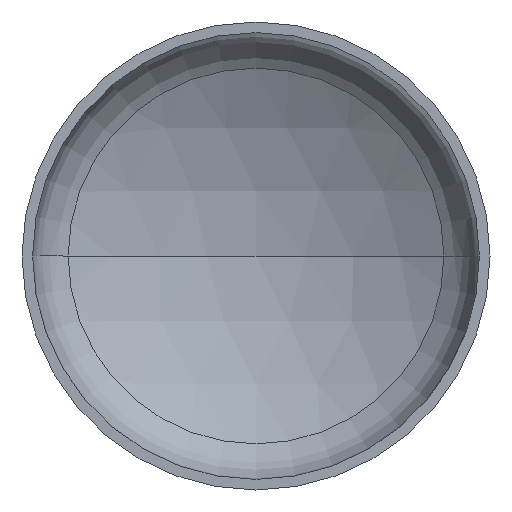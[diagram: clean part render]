
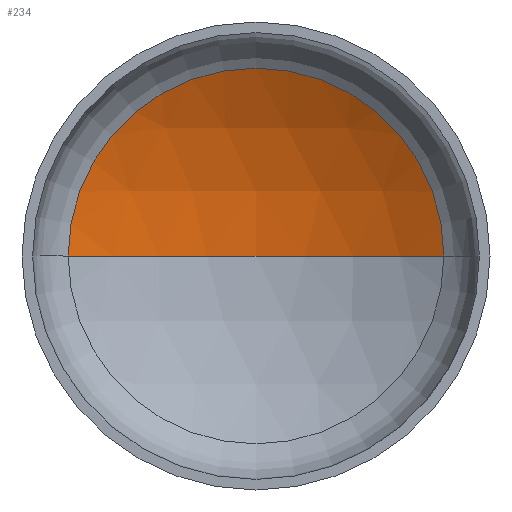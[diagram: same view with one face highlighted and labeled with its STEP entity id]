
A CAD part, front view. The second image highlights one B-rep face of the part: STEP entity #234.
In plain terms, the highlighted spherical face has radius 1520 mm.
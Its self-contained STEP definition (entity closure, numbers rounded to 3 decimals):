
#3 = AXIS2_PLACEMENT_3D ( 'NONE', #360, #88, #219 ) ;
#4 = CARTESIAN_POINT ( 'NONE',  ( 762.472, 380.875, 0. ) ) ;
#16 = AXIS2_PLACEMENT_3D ( 'NONE', #179, #295, #298 ) ;
#18 = AXIS2_PLACEMENT_3D ( 'NONE', #188, #356, #218 ) ;
#29 = EDGE_LOOP ( 'NONE', ( #124, #159, #103 ) ) ;
#34 = AXIS2_PLACEMENT_3D ( 'NONE', #401, #278, #184 ) ;
#82 = CIRCLE ( 'NONE', #3, 1520. ) ;
#84 = VERTEX_POINT ( 'NONE', #181 ) ;
#88 = DIRECTION ( 'NONE',  ( 0., 0., 1. ) ) ;
#103 = ORIENTED_EDGE ( 'NONE', *, *, #328, .T. ) ;
#124 = ORIENTED_EDGE ( 'NONE', *, *, #392, .F. ) ;
#152 = VERTEX_POINT ( 'NONE', #196 ) ;
#157 = SPHERICAL_SURFACE ( 'NONE', #34, 1520. ) ;
#159 = ORIENTED_EDGE ( 'NONE', *, *, #345, .T. ) ;
#172 = VERTEX_POINT ( 'NONE', #4 ) ;
#179 = CARTESIAN_POINT ( 'NONE',  ( 0., -934.054, 0. ) ) ;
#181 = CARTESIAN_POINT ( 'NONE',  ( -762.472, 380.875, 0. ) ) ;
#184 = DIRECTION ( 'NONE',  ( -1., 0., 0. ) ) ;
#188 = CARTESIAN_POINT ( 'NONE',  ( 0., 380.875, 0. ) ) ;
#196 = CARTESIAN_POINT ( 'NONE',  ( 0., 585.946, 0. ) ) ;
#217 = CIRCLE ( 'NONE', #16, 1520. ) ;
#218 = DIRECTION ( 'NONE',  ( 1., 0., 0. ) ) ;
#219 = DIRECTION ( 'NONE',  ( 1., 0., 0. ) ) ;
#234 = ADVANCED_FACE ( 'NONE', ( #287 ), #157, .F. ) ;
#278 = DIRECTION ( 'NONE',  ( 0., 0., -1. ) ) ;
#287 = FACE_OUTER_BOUND ( 'NONE', #29, .T. ) ;
#295 = DIRECTION ( 'NONE',  ( 0., 0., -1. ) ) ;
#298 = DIRECTION ( 'NONE',  ( -1., 0., 0. ) ) ;
#328 = EDGE_CURVE ( 'NONE', #172, #84, #396, .T. ) ;
#345 = EDGE_CURVE ( 'NONE', #152, #172, #217, .T. ) ;
#356 = DIRECTION ( 'NONE',  ( 0., -1., 0. ) ) ;
#360 = CARTESIAN_POINT ( 'NONE',  ( 0., -934.054, 0. ) ) ;
#392 = EDGE_CURVE ( 'NONE', #152, #84, #82, .T. ) ;
#396 = CIRCLE ( 'NONE', #18, 762.472 ) ;
#401 = CARTESIAN_POINT ( 'NONE',  ( 0., -934.054, 0. ) ) ;
